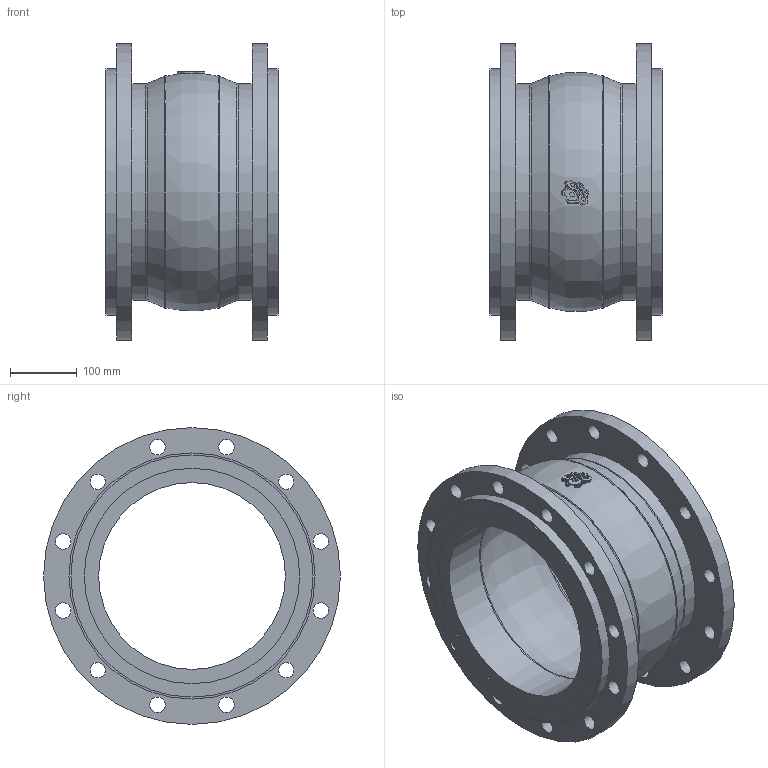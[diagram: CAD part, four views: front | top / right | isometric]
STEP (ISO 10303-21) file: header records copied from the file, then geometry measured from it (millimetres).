
FILE_DESCRIPTION(('STEP AP203'), '1');
FILE_NAME('3D_500-300-EPDM-FF', '', ('UNSPECIFIED'), ('UNSPECIFIED'), 'C3D Converter', 'C3D Toolkit', '');
FILE_SCHEMA(('CONFIG_CONTROL_DESIGN'));
Length unit declared in the file: millimetre
Bounding box: 260 x 445 x 445 mm (x, y, z)
Volume: 9734844 mm3; surface area: 908088 mm2
Topology: 9 solids, 9 shells, 887 faces, 2597 edges, 1736 vertices
Faces by surface type: plane 839, cylinder 36, torus 12
Full cylindrical faces by diameter (mm): 23 x24, 280 x2, 323 x2, 325 x2, 363 x2, 369 x2, 445 x2
Entity records: 35976 total; most frequent: CARTESIAN_POINT 5173, ORIENTED_EDGE 5098, DIRECTION 4435, EDGE_CURVE 2549, LINE 2439, VECTOR 2439, VERTEX_POINT 1736, EDGE_LOOP 1005
